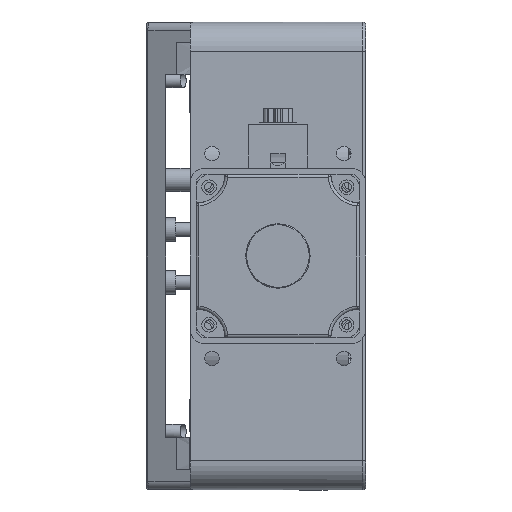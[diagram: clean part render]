
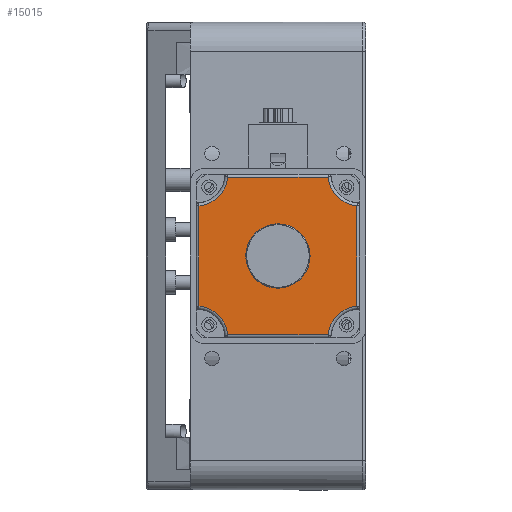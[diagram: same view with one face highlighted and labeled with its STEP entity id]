
A CAD part, left-side view. The second image highlights one B-rep face of the part: STEP entity #15015.
In plain terms, the highlighted planar face has unit normal (-1, 0, 0).
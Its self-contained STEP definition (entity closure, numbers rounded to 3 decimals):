
#76 = CIRCLE ( 'NONE', #25399, 10.899 ) ;
#236 = VECTOR ( 'NONE', #9642, 1000. ) ;
#341 = CIRCLE ( 'NONE', #10680, 10.899 ) ;
#858 = VERTEX_POINT ( 'NONE', #23433 ) ;
#954 = CIRCLE ( 'NONE', #11514, 3.175 ) ;
#1454 = CARTESIAN_POINT ( 'NONE',  ( -212., 47.146, -27. ) ) ;
#1565 = CARTESIAN_POINT ( 'NONE',  ( -212., 12.854, -27. ) ) ;
#1833 = ORIENTED_EDGE ( 'NONE', *, *, #21377, .T. ) ;
#1931 = ORIENTED_EDGE ( 'NONE', *, *, #20407, .T. ) ;
#2017 = AXIS2_PLACEMENT_3D ( 'NONE', #29580, #27129, #12416 ) ;
#2058 = CARTESIAN_POINT ( 'NONE',  ( -212., 3., 17.146 ) ) ;
#2146 = VERTEX_POINT ( 'NONE', #11410 ) ;
#3414 = DIRECTION ( 'NONE',  ( 0., 1., 0. ) ) ;
#3472 = FACE_BOUND ( 'NONE', #9920, .T. ) ;
#3607 = EDGE_CURVE ( 'NONE', #27312, #9306, #31267, .T. ) ;
#3660 = CARTESIAN_POINT ( 'NONE',  ( -212., 3., -17.146 ) ) ;
#3884 = DIRECTION ( 'NONE',  ( 1., 0., 0. ) ) ;
#4387 = LINE ( 'NONE', #19479, #236 ) ;
#4974 = ORIENTED_EDGE ( 'NONE', *, *, #14838, .T. ) ;
#4985 = CIRCLE ( 'NONE', #16741, 10.899 ) ;
#5554 = EDGE_CURVE ( 'NONE', #17696, #2146, #76, .T. ) ;
#5847 = VERTEX_POINT ( 'NONE', #20420 ) ;
#7492 = CARTESIAN_POINT ( 'NONE',  ( -212., 47.146, 27. ) ) ;
#7675 = EDGE_LOOP ( 'NONE', ( #9225, #1833, #11153, #1931, #19427, #8301, #4974, #10009 ) ) ;
#8301 = ORIENTED_EDGE ( 'NONE', *, *, #18956, .T. ) ;
#9225 = ORIENTED_EDGE ( 'NONE', *, *, #17436, .T. ) ;
#9229 = CIRCLE ( 'NONE', #23899, 10.899 ) ;
#9290 = DIRECTION ( 'NONE',  ( 0., -1., 0. ) ) ;
#9306 = VERTEX_POINT ( 'NONE', #29187 ) ;
#9642 = DIRECTION ( 'NONE',  ( 0., 0., 1. ) ) ;
#9757 = PLANE ( 'NONE',  #2017 ) ;
#9920 = EDGE_LOOP ( 'NONE', ( #13420, #31345 ) ) ;
#10009 = ORIENTED_EDGE ( 'NONE', *, *, #14282, .T. ) ;
#10142 = DIRECTION ( 'NONE',  ( 0., 1., 0. ) ) ;
#10680 = AXIS2_PLACEMENT_3D ( 'NONE', #22133, #12391, #10142 ) ;
#11153 = ORIENTED_EDGE ( 'NONE', *, *, #13728, .T. ) ;
#11249 = EDGE_CURVE ( 'NONE', #9306, #27312, #954, .T. ) ;
#11410 = CARTESIAN_POINT ( 'NONE',  ( -212., 12.854, 27. ) ) ;
#11514 = AXIS2_PLACEMENT_3D ( 'NONE', #27859, #30499, #3414 ) ;
#11765 = DIRECTION ( 'NONE',  ( 0., 1., 0. ) ) ;
#12145 = DIRECTION ( 'NONE',  ( -1., 0., 0. ) ) ;
#12391 = DIRECTION ( 'NONE',  ( 1., 0., 0. ) ) ;
#12416 = DIRECTION ( 'NONE',  ( 0., 1., 0. ) ) ;
#13389 = AXIS2_PLACEMENT_3D ( 'NONE', #26859, #12145, #29318 ) ;
#13404 = DIRECTION ( 'NONE',  ( 0., 1., 0. ) ) ;
#13420 = ORIENTED_EDGE ( 'NONE', *, *, #3607, .F. ) ;
#13728 = EDGE_CURVE ( 'NONE', #14602, #25645, #9229, .T. ) ;
#14282 = EDGE_CURVE ( 'NONE', #858, #5847, #31029, .T. ) ;
#14390 = CARTESIAN_POINT ( 'NONE',  ( -212., 2., -27. ) ) ;
#14472 = DIRECTION ( 'NONE',  ( 0., 1., 0. ) ) ;
#14602 = VERTEX_POINT ( 'NONE', #1565 ) ;
#14838 = EDGE_CURVE ( 'NONE', #22060, #858, #4985, .T. ) ;
#15015 = ADVANCED_FACE ( 'NONE', ( #23002, #3472 ), #9757, .F. ) ;
#15806 = LINE ( 'NONE', #14390, #26563 ) ;
#16741 = AXIS2_PLACEMENT_3D ( 'NONE', #30445, #3884, #13404 ) ;
#17436 = EDGE_CURVE ( 'NONE', #5847, #19184, #341, .T. ) ;
#17696 = VERTEX_POINT ( 'NONE', #2058 ) ;
#18168 = VECTOR ( 'NONE', #25635, 1000. ) ;
#18956 = EDGE_CURVE ( 'NONE', #2146, #22060, #23170, .T. ) ;
#19184 = VERTEX_POINT ( 'NONE', #1454 ) ;
#19427 = ORIENTED_EDGE ( 'NONE', *, *, #5554, .T. ) ;
#19479 = CARTESIAN_POINT ( 'NONE',  ( -212., 3., -28. ) ) ;
#20407 = EDGE_CURVE ( 'NONE', #25645, #17696, #4387, .T. ) ;
#20420 = CARTESIAN_POINT ( 'NONE',  ( -212., 57., -17.146 ) ) ;
#21377 = EDGE_CURVE ( 'NONE', #19184, #14602, #15806, .T. ) ;
#21849 = CARTESIAN_POINT ( 'NONE',  ( -212., 57., -28. ) ) ;
#22060 = VERTEX_POINT ( 'NONE', #7492 ) ;
#22133 = CARTESIAN_POINT ( 'NONE',  ( -212., 58., -28. ) ) ;
#23002 = FACE_OUTER_BOUND ( 'NONE', #7675, .T. ) ;
#23170 = LINE ( 'NONE', #25532, #18168 ) ;
#23433 = CARTESIAN_POINT ( 'NONE',  ( -212., 57., 17.146 ) ) ;
#23860 = CARTESIAN_POINT ( 'NONE',  ( -212., 2., -28. ) ) ;
#23899 = AXIS2_PLACEMENT_3D ( 'NONE', #23860, #25030, #14472 ) ;
#24554 = VECTOR ( 'NONE', #27235, 1000. ) ;
#25030 = DIRECTION ( 'NONE',  ( 1., 0., 0. ) ) ;
#25399 = AXIS2_PLACEMENT_3D ( 'NONE', #26482, #26384, #11765 ) ;
#25532 = CARTESIAN_POINT ( 'NONE',  ( -212., 2., 27. ) ) ;
#25635 = DIRECTION ( 'NONE',  ( 0., 1., 0. ) ) ;
#25645 = VERTEX_POINT ( 'NONE', #3660 ) ;
#26384 = DIRECTION ( 'NONE',  ( 1., 0., 0. ) ) ;
#26482 = CARTESIAN_POINT ( 'NONE',  ( -212., 2., 28. ) ) ;
#26563 = VECTOR ( 'NONE', #9290, 1000. ) ;
#26859 = CARTESIAN_POINT ( 'NONE',  ( -212., 30., 0. ) ) ;
#27129 = DIRECTION ( 'NONE',  ( 1., 0., 0. ) ) ;
#27235 = DIRECTION ( 'NONE',  ( 0., 0., -1. ) ) ;
#27312 = VERTEX_POINT ( 'NONE', #27634 ) ;
#27634 = CARTESIAN_POINT ( 'NONE',  ( -212., 33.175, 0. ) ) ;
#27859 = CARTESIAN_POINT ( 'NONE',  ( -212., 30., 0. ) ) ;
#29187 = CARTESIAN_POINT ( 'NONE',  ( -212., 26.825, 0. ) ) ;
#29318 = DIRECTION ( 'NONE',  ( 0., 1., 0. ) ) ;
#29580 = CARTESIAN_POINT ( 'NONE',  ( -212., 2., -28. ) ) ;
#30445 = CARTESIAN_POINT ( 'NONE',  ( -212., 58., 28. ) ) ;
#30499 = DIRECTION ( 'NONE',  ( -1., 0., 0. ) ) ;
#31029 = LINE ( 'NONE', #21849, #24554 ) ;
#31267 = CIRCLE ( 'NONE', #13389, 3.175 ) ;
#31345 = ORIENTED_EDGE ( 'NONE', *, *, #11249, .F. ) ;
